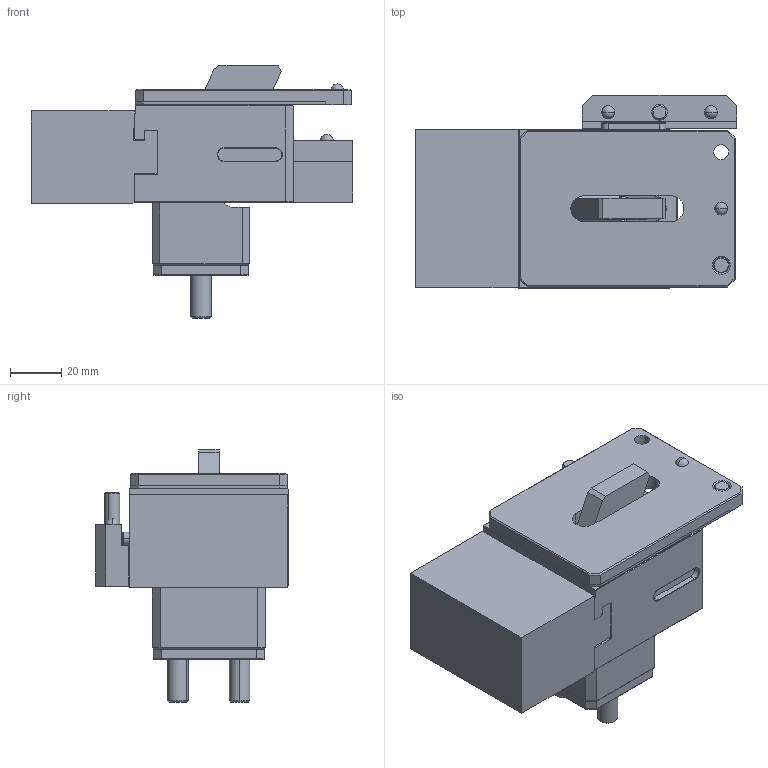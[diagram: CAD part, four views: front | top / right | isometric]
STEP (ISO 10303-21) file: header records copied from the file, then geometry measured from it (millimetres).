
FILE_DESCRIPTION (( 'STEP AP214' ), '1' );
FILE_NAME ('CS624022-.STEP', '2024-02-09T14:07:11', ( '' ), ( '' ), 'SwSTEP 2.0', 'SolidWorks 2021', '' );
FILE_SCHEMA (( 'AUTOMOTIVE_DESIGN' ));
Length unit declared in the file: millimetre
Products named in the file (18): iman_6x5^CS624022-; 9CS000000-F_V3^CS624022-; 9CS624022-A; M6x30^CS624022-; 9CS624014-E^CS624022-; 9CS624022-D1^CS624022-; CS624022-; Chaveta_25x5^CS624022-; M8x60(esp)^CS624022-; torica_3x1i5^CS624022-; 9CS624014-B^CS624022-; Bola_5^CS624022-; iman_4x2^CS624022-; 9CS000000-G^CS624022-; 9CS624022-D2^CS624022-; iman_6x2^CS624022-; 9CS624022-C^CS624022-; iman_6x3^CS624022-
Assembly tree (22 placements, depth 2):
  CS624022-
    9CS624014-B^CS624022-
    9CS624022-C^CS624022-
    M8x60(esp)^CS624022-  x2
    9CS624014-E^CS624022-
    iman_6x2^CS624022-
    9CS624022-D1^CS624022-
    9CS624022-D2^CS624022-
    Bola_5^CS624022-  x3
    9CS000000-G^CS624022-
    torica_3x1i5^CS624022-
    Chaveta_25x5^CS624022-
    iman_4x2^CS624022-
    iman_6x5^CS624022-
    iman_6x3^CS624022-  x3
    9CS000000-F_V3^CS624022-
    M6x30^CS624022-
    9CS624022-A
Bounding box: 125 x 75.1 x 98.1 mm (x, y, z)
Volume: 315590.9 mm3; surface area: 87779 mm2
Topology: 22 solids, 22 shells, 896 faces, 2201 edges, 1379 vertices
Faces by surface type: plane 366, bspline 198, cylinder 176, torus 77, cone 67, sphere 12
Entity records: 39673 total; most frequent: CARTESIAN_POINT 16850, ORIENTED_EDGE 4150, DIRECTION 3437, EDGE_CURVE 2075, VERTEX_POINT 1316, AXIS2_PLACEMENT_3D 1149, VECTOR 1139, LINE 1139
